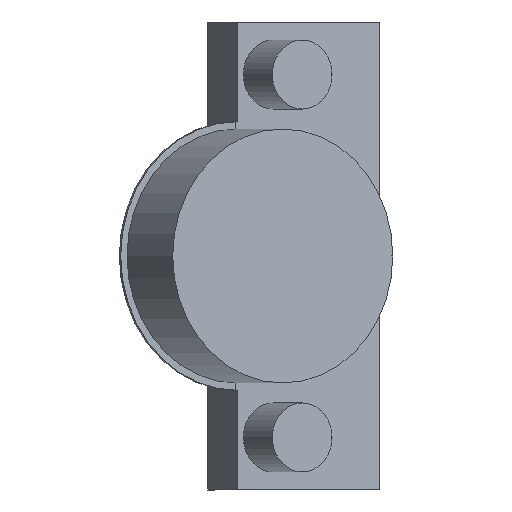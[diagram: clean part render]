
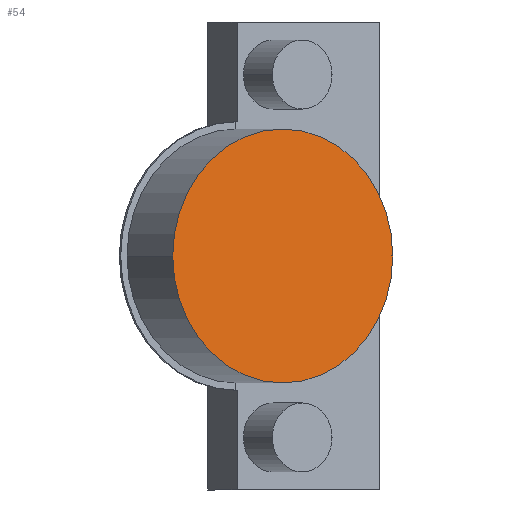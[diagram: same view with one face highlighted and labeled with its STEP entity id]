
A CAD part, front view. The second image highlights one B-rep face of the part: STEP entity #54.
In plain terms, the highlighted planar face has unit normal (0.5, -0.866, 0).
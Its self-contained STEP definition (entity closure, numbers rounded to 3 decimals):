
#54 = ADVANCED_FACE ( 'NONE', ( #1113 ), #337, .T. ) ;
#93 = VERTEX_POINT ( 'NONE', #445 ) ;
#108 = VERTEX_POINT ( 'NONE', #460 ) ;
#337 = PLANE ( 'NONE',  #1439 ) ;
#340 = CARTESIAN_POINT ( 'NONE',  ( 12.05, -10.912, 0. ) ) ;
#346 = DIRECTION ( 'NONE',  ( 0.5, -0.866, 0. ) ) ;
#347 = DIRECTION ( 'NONE',  ( 0.866, 0.5, 0. ) ) ;
#445 = CARTESIAN_POINT ( 'NONE',  ( 27.205, -2.162, 0. ) ) ;
#460 = CARTESIAN_POINT ( 'NONE',  ( -3.105, -19.662, 0. ) ) ;
#584 = CARTESIAN_POINT ( 'NONE',  ( 12.05, -10.912, 0. ) ) ;
#585 = DIRECTION ( 'NONE',  ( 0.5, -0.866, 0. ) ) ;
#586 = DIRECTION ( 'NONE',  ( 0.866, 0.5, 0. ) ) ;
#794 = ORIENTED_EDGE ( 'NONE', *, *, #1768, .T. ) ;
#795 = ORIENTED_EDGE ( 'NONE', *, *, #1664, .T. ) ;
#1019 = EDGE_LOOP ( 'NONE', ( #795, #794 ) ) ;
#1113 = FACE_OUTER_BOUND ( 'NONE', #1019, .T. ) ;
#1192 = CIRCLE ( 'NONE', #1465, 17.5 ) ;
#1379 = CIRCLE ( 'NONE', #1483, 17.5 ) ;
#1439 = AXIS2_PLACEMENT_3D ( 'NONE', #340, #346, #347 ) ;
#1465 = AXIS2_PLACEMENT_3D ( 'NONE', #584, #585, #586 ) ;
#1483 = AXIS2_PLACEMENT_3D ( 'NONE', #1582, #1591, #1592 ) ;
#1582 = CARTESIAN_POINT ( 'NONE',  ( 12.05, -10.912, 0. ) ) ;
#1591 = DIRECTION ( 'NONE',  ( 0.5, -0.866, 0. ) ) ;
#1592 = DIRECTION ( 'NONE',  ( 0.866, 0.5, 0. ) ) ;
#1664 = EDGE_CURVE ( 'NONE', #108, #93, #1192, .T. ) ;
#1768 = EDGE_CURVE ( 'NONE', #93, #108, #1379, .T. ) ;
